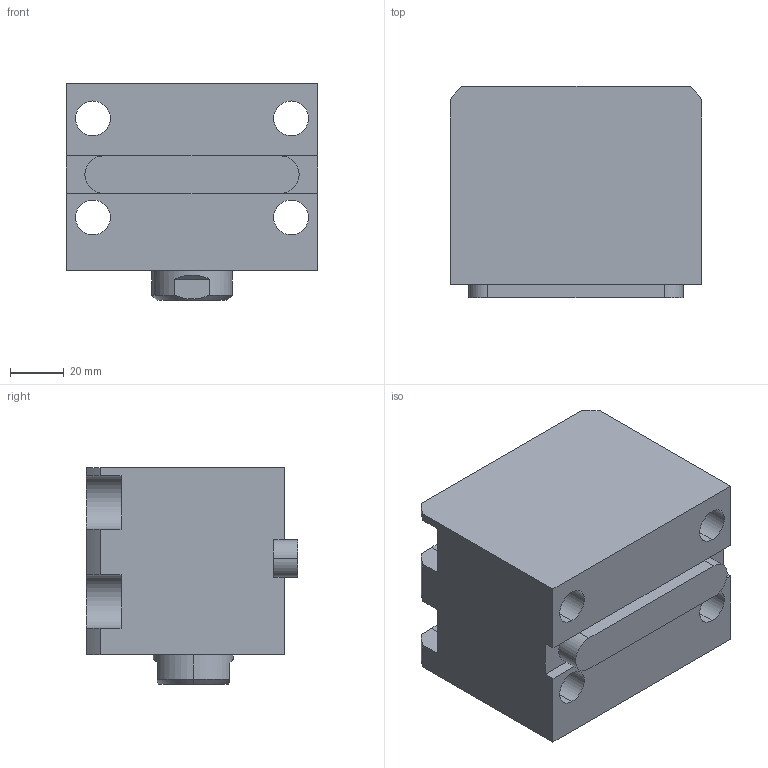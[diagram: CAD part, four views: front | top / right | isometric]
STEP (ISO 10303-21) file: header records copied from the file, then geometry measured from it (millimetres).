
FILE_DESCRIPTION (( 'STEP AP203' ), '1' );
FILE_NAME ('CHTB-LA50-10N.STEP', '2018-05-18T00:15:46', ( '' ), ( '' ), 'SwSTEP 2.0', 'SolidWorks 2015', '' );
FILE_SCHEMA (( 'CONFIG_CONTROL_DESIGN' ));
Length unit declared in the file: millimetre
Products named in the file (4): 掛极LA50-10N; CHTB-LA50-10N; 活塞杆LA50-10N; CHTM-SDMA50QG
Assembly tree (3 placements, depth 2):
  CHTB-LA50-10N
    掛极LA50-10N
    活塞杆LA50-10N
    CHTM-SDMA50QG
Bounding box: 94 x 79 x 81 mm (x, y, z)
Volume: 419228.4 mm3; surface area: 89425.2 mm2
Topology: 3 solids, 3 shells, 202 faces, 542 edges, 358 vertices
Faces by surface type: cylinder 96, plane 53, cone 23, torus 16, bspline 14
Entity records: 11255 total; most frequent: CARTESIAN_POINT 5992, ORIENTED_EDGE 1072, DIRECTION 958, EDGE_CURVE 536, AXIS2_PLACEMENT_3D 377, VERTEX_POINT 358, EDGE_LOOP 234, LINE 204
